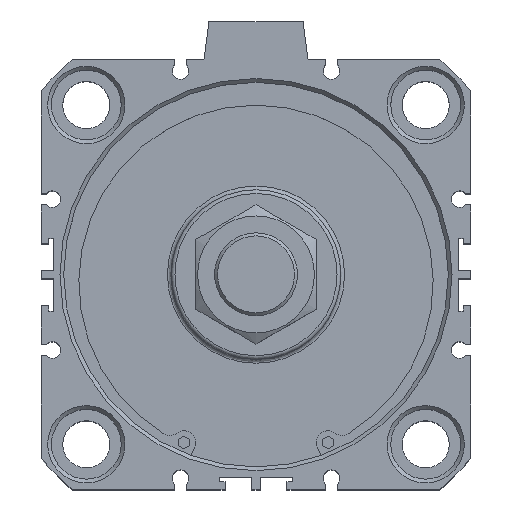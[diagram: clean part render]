
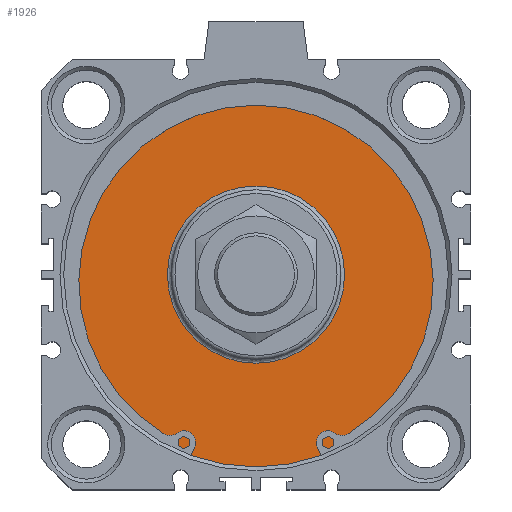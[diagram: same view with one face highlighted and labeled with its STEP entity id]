
A CAD part, top view. The second image highlights one B-rep face of the part: STEP entity #1926.
In plain terms, the highlighted planar face has unit normal (0, 0, 1).
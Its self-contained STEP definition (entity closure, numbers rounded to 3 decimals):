
#1875=CARTESIAN_POINT('',(-3.11,25.175,67.6));
#1876=VERTEX_POINT('',#1875);
#1877=CARTESIAN_POINT('',(-3.11,1.675,67.6));
#1878=DIRECTION('',(0.0,0.0,1.0));
#1879=DIRECTION('',(0.0,-1.0,0.0));
#1880=AXIS2_PLACEMENT_3D('',#1877,#1878,#1879);
#1881=CIRCLE('',#1880,23.5);
#1882=EDGE_CURVE('',#1876,#1876,#1881,.T.);
#1907=CARTESIAN_POINT('',(-3.11,38.425,67.6));
#1908=DIRECTION('',(0.0,0.0,1.0));
#1909=DIRECTION('',(1.0,0.0,0.0));
#1910=AXIS2_PLACEMENT_3D('',#1907,#1908,#1909);
#1911=PLANE('',#1910);
#1912=CARTESIAN_POINT('',(-3.11,52.675,67.6));
#1913=VERTEX_POINT('',#1912);
#1914=CARTESIAN_POINT('',(-3.11,1.675,67.6));
#1915=DIRECTION('',(0.0,0.0,-1.0));
#1916=DIRECTION('',(0.0,1.0,0.0));
#1917=AXIS2_PLACEMENT_3D('',#1914,#1915,#1916);
#1918=CIRCLE('',#1917,51.);
#1919=EDGE_CURVE('',#1913,#1913,#1918,.T.);
#1920=ORIENTED_EDGE('',*,*,#1919,.F.);
#1921=EDGE_LOOP('',(#1920));
#1922=FACE_OUTER_BOUND('',#1921,.T.);
#1923=ORIENTED_EDGE('',*,*,#1882,.F.);
#1924=EDGE_LOOP('',(#1923));
#1925=FACE_BOUND('',#1924,.T.);
#1926=ADVANCED_FACE('',(#1922,#1925),#1911,.T.);
